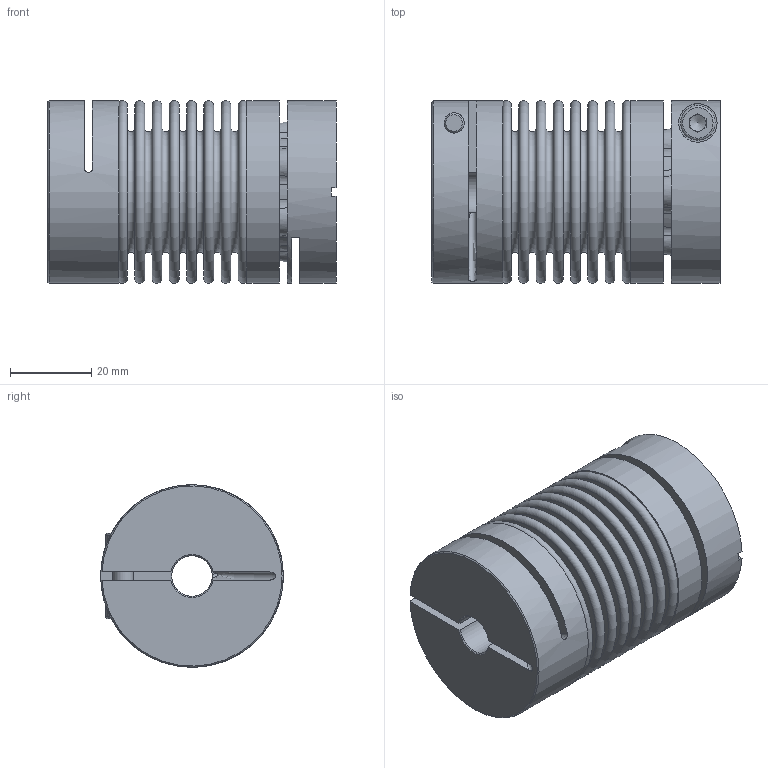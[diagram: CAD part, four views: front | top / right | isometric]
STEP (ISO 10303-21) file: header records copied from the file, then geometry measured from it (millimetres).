
FILE_DESCRIPTION( ( 'Unknown' ), '1' );
FILE_NAME( 'C:/Users/skarpstein/Desktop/KB4P/KB4P/KB4P-18-70.stp', 'Unknown', ( 'Unknown' ), ( 'Unknown' ), 'PSStep 16.0.42', 'Unknown', ' ' );
FILE_SCHEMA( ( 'AUTOMOTIVE_DESIGN { 1 0 10303 214 1 1 1 1 }' ) );
Length unit declared in the file: millimetre
Products named in the file (6): Assem1; KN18C_Standard; Socket Head Cap Screw_DIN_DIN 912 M5 x 16 --- 16N; Stecknabe KB4P-18; Balgaufnahme KB4P-18; BL18_Standard_1
Assembly tree (6 placements, depth 2):
  Assem1
    KN18C_Standard
    Socket Head Cap Screw_DIN_DIN 912 M5 x 16 --- 16N  x2
    Stecknabe KB4P-18
    Balgaufnahme KB4P-18
    BL18_Standard_1
Bounding box: 71.08 x 45 x 45 mm (x, y, z)
Volume: 58352.5 mm3; surface area: 54453.5 mm2
Topology: 6 solids, 6 shells, 202 faces, 450 edges, 293 vertices
Faces by surface type: plane 84, cone 55, torus 39, cylinder 23, bspline 1
Full cylindrical faces by diameter (mm): 4.134 x1, 5 x3, 5.3 x2, 8.5 x2, 9.5 x1, 10 x2, 40.4 x2, 41 x2, 45 x3
Entity records: 7266 total; most frequent: CARTESIAN_POINT 1683, DIRECTION 913, ORIENTED_EDGE 688, AXIS2_PLACEMENT_3D 405, EDGE_CURVE 344, EDGE_LOOP 281, VERTEX_POINT 274, FACE_OUTER_BOUND 231
